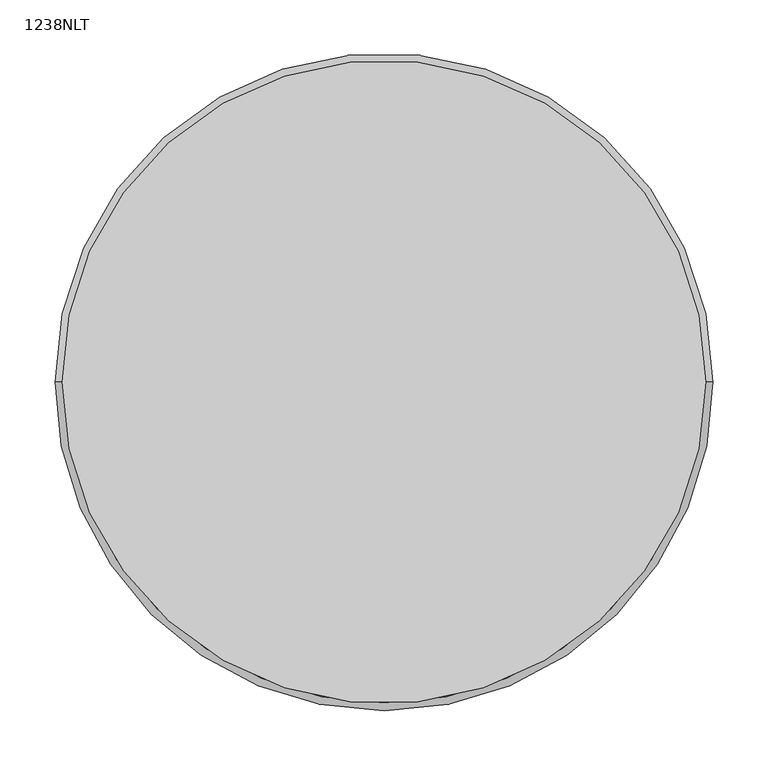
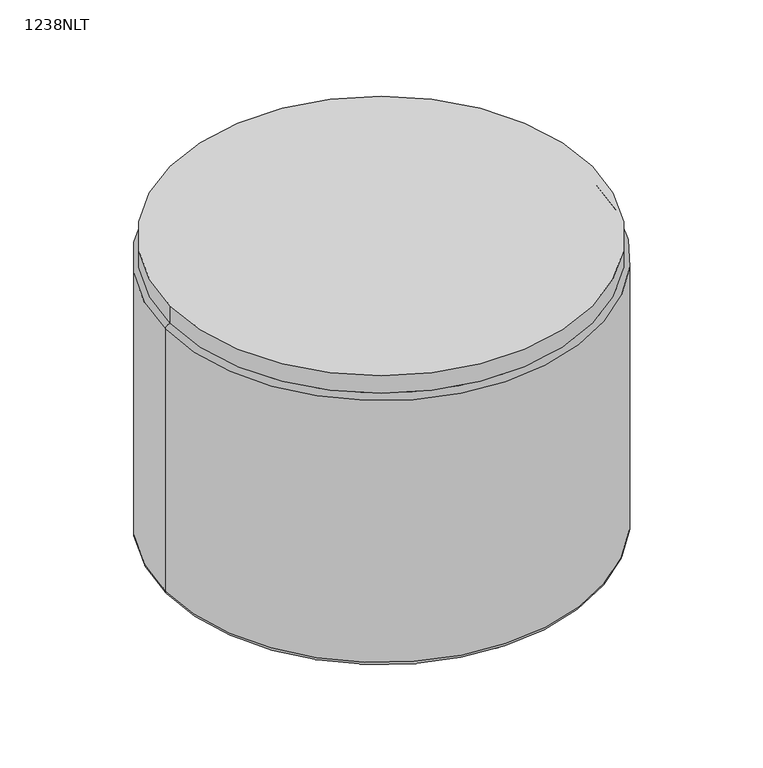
"""IFC4 building model written with IfcOpenShell, lengths in millimetres: furniture geometry, Laguna-Round_Ottomans-No_Legs-ERG : 1238NLT."""

from ifc_helpers import new_model, si_unit, point, frame, frame_2d, origin, place, context, project, spatial, circle_curve, ellipse_curve, trimmed, segment, composite_curve, outline, extrude, source, transform, mapped, element, save
from ifc_brep_helpers import plane_surface, cylinder_surface, revolved_surface, advanced_brep


def furniture_1238nlt_c17ac9a5(model_context):
    return source(origin(), model_context, "Body", "SolidModel", [
        extrude(outline(composite_curve([segment(trimmed(circle_curve(frame_2d((-4662.7421763, 1234.1558502)), 292.1), [point((-4954.8421763, 1234.1558502))], [point((-4370.6421763, 1234.1558502))], False, "CARTESIAN"), True, "CONTINUOUS"), segment(trimmed(circle_curve(frame_2d((-4662.7421763, 1234.1558502)), 292.1), [point((-4370.6421763, 1234.1558502))], [point((-4954.8421763, 1234.1558502))], False, "CARTESIAN"), True, "CONTINUOUS")], self_intersect=False)), frame((0.0, 0.0, 406.4), z_axis=(0.0, 0.0, 1.0), x_axis=(1.0, 0.0, 0.0)), (0.0, 0.0, 1.0), 25.4),
        advanced_brep(
        [(-4396.0421763, 1234.1558502, 10.16), (-4400.2852245, 1234.1558502, 10.16), (-4391.7991282, 1234.1558502, 10.16), (-4381.9638229, 1234.1558502, 0.0), (-4410.1205297, 1234.1558502, 0.0), (-4396.0421763, 1234.1558502, 0.0), (-4381.9638229, 1234.1558502, 3.9615026), (-4410.1205297, 1234.1558502, 3.9615026), (-4391.7991282, 1234.1558502, 3.9615026), (-4400.2852245, 1234.1558502, 3.9615026)],
        [
            (0, 1),
            (1, 2, circle_curve(frame((-4396.0421763, 1234.1558502, 10.16), z_axis=(0.0, 0.0, 1.0), x_axis=(-1.0, 0.0, 0.0)), 4.2430482)),
            (2, 0),
            (2, 1, circle_curve(frame((-4396.0421763, 1234.1558502, 10.16), z_axis=(0.0, 0.0, 1.0), x_axis=(-1.0, 0.0, 0.0)), 4.2430482)),
            (3, 4, circle_curve(frame((-4396.0421763, 1234.1558502, 0.0), z_axis=(0.0, 0.0, -1.0), x_axis=(-1.0, 0.0, 0.0)), 14.0783534)),
            (4, 5),
            (5, 3),
            (4, 3, circle_curve(frame((-4396.0421763, 1234.1558502, 0.0), z_axis=(0.0, 0.0, -1.0), x_axis=(-1.0, 0.0, 0.0)), 14.0783534)),
            (6, 7, circle_curve(frame((-4396.0421763, 1234.1558502, 3.9615026), z_axis=(0.0, 0.0, -1.0), x_axis=(-1.0, 0.0, 0.0)), 14.0783534)),
            (7, 4),
            (3, 6),
            (7, 6, circle_curve(frame((-4396.0421763, 1234.1558502, 3.9615026), z_axis=(0.0, 0.0, -1.0), x_axis=(-1.0, 0.0, 0.0)), 14.0783534)),
            (8, 9, circle_curve(frame((-4396.0421763, 1234.1558502, 3.9615026), z_axis=(0.0, 0.0, -1.0), x_axis=(-1.0, 0.0, 0.0)), 4.2430482)),
            (9, 7),
            (6, 8),
            (9, 8, circle_curve(frame((-4396.0421763, 1234.1558502, 3.9615026), z_axis=(0.0, 0.0, -1.0), x_axis=(-1.0, 0.0, 0.0)), 4.2430482)),
            (1, 9),
            (8, 2),
        ],
        [
            plane_surface(frame((-4396.0421763, 1234.1558502, 10.16), z_axis=(0.0, 0.0, 1.0), x_axis=(-1.0, 0.0, 0.0))),
            plane_surface(frame((-4396.0421763, 1234.1558502, 0.0), z_axis=(0.0, 0.0, -1.0), x_axis=(-1.0, 0.0, 0.0))),
            cylinder_surface(frame((-4396.0421763, 1234.1558502, 80.01), z_axis=(0.0, 0.0, 1.0), x_axis=(-1.0, 0.0, 0.0)), 14.0783534),
            plane_surface(frame((-4396.0421763, 1234.1558502, 3.9615026), z_axis=(0.0, 0.0, 1.0), x_axis=(-1.0, 0.0, 0.0))),
            cylinder_surface(frame((-4396.0421763, 1234.1558502, 80.01), z_axis=(0.0, 0.0, 1.0), x_axis=(-1.0, 0.0, 0.0)), 4.2430482),
        ],
        [
            (0, [[1, 2, 3]]),
            (0, [[-3, 4, -1]]),
            (1, [[5, 6, 7]]),
            (1, [[8, -7, -6]]),
            (2, [[9, 10, -5, 11]]),
            (2, [[12, -11, -8, -10]]),
            (3, [[13, 14, -9, 15]]),
            (3, [[16, -15, -12, -14]]),
            (4, [[-2, 17, -13, 18]]),
            (4, [[-4, -18, -16, -17]]),
        ],
    ),
        advanced_brep(
        [(-4933.6852245, 1234.1558502, 3.9615026), (-4925.1991282, 1234.1558502, 3.9615026), (-4925.1991282, 1234.1558502, 10.16), (-4933.6852245, 1234.1558502, 10.16), (-4943.5205297, 1234.1558502, 3.9615026), (-4915.3638229, 1234.1558502, 3.9615026), (-4943.5205297, 1234.1558502, 0.0), (-4915.3638229, 1234.1558502, 0.0), (-4929.4421763, 1234.1558502, 0.0), (-4929.4421763, 1234.1558502, 10.16)],
        [
            (0, 1, circle_curve(frame((-4929.4421763, 1234.1558502, 3.9615026), z_axis=(0.0, 0.0, 1.0), x_axis=(1.0, 0.0, 0.0)), 4.2430482)),
            (1, 2),
            (2, 3, circle_curve(frame((-4929.4421763, 1234.1558502, 10.16), z_axis=(0.0, 0.0, -1.0), x_axis=(1.0, 0.0, 0.0)), 4.2430482)),
            (3, 0),
            (1, 0, circle_curve(frame((-4929.4421763, 1234.1558502, 3.9615026), z_axis=(0.0, 0.0, 1.0), x_axis=(1.0, 0.0, 0.0)), 4.2430482)),
            (3, 2, circle_curve(frame((-4929.4421763, 1234.1558502, 10.16), z_axis=(0.0, 0.0, -1.0), x_axis=(1.0, 0.0, 0.0)), 4.2430482)),
            (4, 5, circle_curve(frame((-4929.4421763, 1234.1558502, 3.9615026), z_axis=(0.0, 0.0, 1.0), x_axis=(1.0, 0.0, 0.0)), 14.0783534)),
            (5, 1),
            (0, 4),
            (5, 4, circle_curve(frame((-4929.4421763, 1234.1558502, 3.9615026), z_axis=(0.0, 0.0, 1.0), x_axis=(1.0, 0.0, 0.0)), 14.0783534)),
            (6, 7, circle_curve(frame((-4929.4421763, 1234.1558502, 0.0), z_axis=(0.0, 0.0, 1.0), x_axis=(1.0, 0.0, 0.0)), 14.0783534)),
            (7, 5),
            (4, 6),
            (7, 6, circle_curve(frame((-4929.4421763, 1234.1558502, 0.0), z_axis=(0.0, 0.0, 1.0), x_axis=(1.0, 0.0, 0.0)), 14.0783534)),
            (8, 7),
            (6, 8),
            (2, 9),
            (9, 3),
        ],
        [
            cylinder_surface(frame((-4929.4421763, 1234.1558502, 29.21), z_axis=(0.0, 0.0, -1.0), x_axis=(1.0, 0.0, 0.0)), 4.2430482),
            plane_surface(frame((-4929.4421763, 1234.1558502, 3.9615026), z_axis=(0.0, 0.0, 1.0), x_axis=(1.0, 0.0, 0.0))),
            cylinder_surface(frame((-4929.4421763, 1234.1558502, 29.21), z_axis=(0.0, 0.0, -1.0), x_axis=(1.0, 0.0, 0.0)), 14.0783534),
            plane_surface(frame((-4929.4421763, 1234.1558502, 0.0), z_axis=(0.0, 0.0, -1.0), x_axis=(1.0, 0.0, 0.0))),
            plane_surface(frame((-4929.4421763, 1234.1558502, 10.16), z_axis=(0.0, 0.0, 1.0), x_axis=(1.0, 0.0, 0.0))),
        ],
        [
            (0, [[1, 2, 3, 4]]),
            (0, [[5, -4, 6, -2]]),
            (1, [[7, 8, -1, 9]]),
            (1, [[10, -9, -5, -8]]),
            (2, [[11, 12, -7, 13]]),
            (2, [[14, -13, -10, -12]]),
            (3, [[15, -11, 16]]),
            (3, [[-16, -14, -15]]),
            (4, [[-3, 17, 18]]),
            (4, [[-6, -18, -17]]),
        ],
    ),
        advanced_brep(
        [(-4662.7421763, 971.6988983, 3.9615026), (-4662.7421763, 963.212802, 3.9615026), (-4662.7421763, 963.212802, 10.16), (-4662.7421763, 971.6988983, 10.16), (-4662.7421763, 981.5342036, 3.9615026), (-4662.7421763, 953.3774967, 3.9615026), (-4662.7421763, 981.5342036, 0.0), (-4662.7421763, 953.3774967, 0.0), (-4662.7421763, 967.4558502, 0.0), (-4662.7421763, 967.4558502, 10.16)],
        [
            (0, 1, circle_curve(frame((-4662.7421763, 967.4558502, 3.9615026), z_axis=(0.0, 0.0, 1.0), x_axis=(0.0, -1.0, 0.0)), 4.2430482)),
            (1, 2),
            (2, 3, circle_curve(frame((-4662.7421763, 967.4558502, 10.16), z_axis=(0.0, 0.0, -1.0), x_axis=(0.0, -1.0, 0.0)), 4.2430482)),
            (3, 0),
            (1, 0, circle_curve(frame((-4662.7421763, 967.4558502, 3.9615026), z_axis=(0.0, 0.0, 1.0), x_axis=(0.0, -1.0, 0.0)), 4.2430482)),
            (3, 2, circle_curve(frame((-4662.7421763, 967.4558502, 10.16), z_axis=(0.0, 0.0, -1.0), x_axis=(0.0, -1.0, 0.0)), 4.2430482)),
            (4, 5, circle_curve(frame((-4662.7421763, 967.4558502, 3.9615026), z_axis=(0.0, 0.0, 1.0), x_axis=(0.0, -1.0, 0.0)), 14.0783534)),
            (5, 1),
            (0, 4),
            (5, 4, circle_curve(frame((-4662.7421763, 967.4558502, 3.9615026), z_axis=(0.0, 0.0, 1.0), x_axis=(0.0, -1.0, 0.0)), 14.0783534)),
            (6, 7, circle_curve(frame((-4662.7421763, 967.4558502, 0.0), z_axis=(0.0, 0.0, 1.0), x_axis=(0.0, -1.0, 0.0)), 14.0783534)),
            (7, 5),
            (4, 6),
            (7, 6, circle_curve(frame((-4662.7421763, 967.4558502, 0.0), z_axis=(0.0, 0.0, 1.0), x_axis=(0.0, -1.0, 0.0)), 14.0783534)),
            (8, 7),
            (6, 8),
            (2, 9),
            (9, 3),
        ],
        [
            cylinder_surface(frame((-4662.7421763, 967.4558502, 39.775957), z_axis=(0.0, 0.0, -1.0), x_axis=(0.0, -1.0, 0.0)), 4.2430482),
            plane_surface(frame((-4662.7421763, 967.4558502, 3.9615026), z_axis=(0.0, 0.0, 1.0), x_axis=(0.0, -1.0, 0.0))),
            cylinder_surface(frame((-4662.7421763, 967.4558502, 39.775957), z_axis=(0.0, 0.0, -1.0), x_axis=(0.0, -1.0, 0.0)), 14.0783534),
            plane_surface(frame((-4662.7421763, 967.4558502, 0.0), z_axis=(0.0, 0.0, -1.0), x_axis=(0.0, -1.0, 0.0))),
            plane_surface(frame((-4662.7421763, 967.4558502, 10.16), z_axis=(0.0, 0.0, 1.0), x_axis=(0.0, -1.0, 0.0))),
        ],
        [
            (0, [[1, 2, 3, 4]]),
            (0, [[5, -4, 6, -2]]),
            (1, [[7, 8, -1, 9]]),
            (1, [[10, -9, -5, -8]]),
            (2, [[11, 12, -7, 13]]),
            (2, [[14, -13, -10, -12]]),
            (3, [[15, -11, 16]]),
            (3, [[-16, -14, -15]]),
            (4, [[-3, 17, 18]]),
            (4, [[-6, -18, -17]]),
        ],
    ),
        advanced_brep(
        [(-4662.7421763, 1505.0988983, 3.9615026), (-4662.7421763, 1496.612802, 3.9615026), (-4662.7421763, 1496.612802, 10.16), (-4662.7421763, 1505.0988983, 10.16), (-4662.7421763, 1514.9342036, 3.9615026), (-4662.7421763, 1486.7774967, 3.9615026), (-4662.7421763, 1514.9342036, 0.0), (-4662.7421763, 1486.7774967, 0.0), (-4662.7421763, 1500.8558502, 0.0), (-4662.7421763, 1500.8558502, 10.16)],
        [
            (0, 1, circle_curve(frame((-4662.7421763, 1500.8558502, 3.9615026), z_axis=(0.0, 0.0, 1.0), x_axis=(0.0, -1.0, 0.0)), 4.2430482)),
            (1, 2),
            (2, 3, circle_curve(frame((-4662.7421763, 1500.8558502, 10.16), z_axis=(0.0, 0.0, -1.0), x_axis=(0.0, -1.0, 0.0)), 4.2430482)),
            (3, 0),
            (1, 0, circle_curve(frame((-4662.7421763, 1500.8558502, 3.9615026), z_axis=(0.0, 0.0, 1.0), x_axis=(0.0, -1.0, 0.0)), 4.2430482)),
            (3, 2, circle_curve(frame((-4662.7421763, 1500.8558502, 10.16), z_axis=(0.0, 0.0, -1.0), x_axis=(0.0, -1.0, 0.0)), 4.2430482)),
            (4, 5, circle_curve(frame((-4662.7421763, 1500.8558502, 3.9615026), z_axis=(0.0, 0.0, 1.0), x_axis=(0.0, -1.0, 0.0)), 14.0783534)),
            (5, 1),
            (0, 4),
            (5, 4, circle_curve(frame((-4662.7421763, 1500.8558502, 3.9615026), z_axis=(0.0, 0.0, 1.0), x_axis=(0.0, -1.0, 0.0)), 14.0783534)),
            (6, 7, circle_curve(frame((-4662.7421763, 1500.8558502, 0.0), z_axis=(0.0, 0.0, 1.0), x_axis=(0.0, -1.0, 0.0)), 14.0783534)),
            (7, 5),
            (4, 6),
            (7, 6, circle_curve(frame((-4662.7421763, 1500.8558502, 0.0), z_axis=(0.0, 0.0, 1.0), x_axis=(0.0, -1.0, 0.0)), 14.0783534)),
            (8, 7),
            (6, 8),
            (2, 9),
            (9, 3),
        ],
        [
            cylinder_surface(frame((-4662.7421763, 1500.8558502, 48.26), z_axis=(0.0, 0.0, -1.0), x_axis=(0.0, -1.0, 0.0)), 4.2430482),
            plane_surface(frame((-4662.7421763, 1500.8558502, 3.9615026), z_axis=(0.0, 0.0, 1.0), x_axis=(0.0, -1.0, 0.0))),
            cylinder_surface(frame((-4662.7421763, 1500.8558502, 48.26), z_axis=(0.0, 0.0, -1.0), x_axis=(0.0, -1.0, 0.0)), 14.0783534),
            plane_surface(frame((-4662.7421763, 1500.8558502, 0.0), z_axis=(0.0, 0.0, -1.0), x_axis=(0.0, -1.0, 0.0))),
            plane_surface(frame((-4662.7421763, 1500.8558502, 10.16), z_axis=(0.0, 0.0, 1.0), x_axis=(0.0, -1.0, 0.0))),
        ],
        [
            (0, [[1, 2, 3, 4]]),
            (0, [[5, -4, 6, -2]]),
            (1, [[7, 8, -1, 9]]),
            (1, [[10, -9, -5, -8]]),
            (2, [[11, 12, -7, 13]]),
            (2, [[14, -13, -10, -12]]),
            (3, [[15, -11, 16]]),
            (3, [[-16, -14, -15]]),
            (4, [[-3, 17, 18]]),
            (4, [[-6, -18, -17]]),
        ],
    ),
        advanced_brep(
        [(-4364.281116, 1234.1558502, 399.8831003), (-4961.2032366, 1234.1558502, 399.8831003), (-4961.2032366, 1234.1558502, 16.6768997), (-4364.281116, 1234.1558502, 16.6768997), (-4371.2439761, 1234.1558502, 406.4), (-4954.2403765, 1234.1558502, 406.4), (-4954.2403765, 1234.1558502, 10.16), (-4371.2439761, 1234.1558502, 10.16)],
        [
            (0, 1, circle_curve(frame((-4662.7421763, 1234.1558502, 399.8831003), z_axis=(0.0, 0.0, -1.0), x_axis=(-1.0, 0.0, 0.0)), 298.4610603)),
            (1, 2, circle_curve(frame((-2068.6401763, 1234.1558502, 208.28), z_axis=(0.0, -1.0, 0.0), x_axis=(1.0, 0.0, 0.0)), 2898.902)),
            (2, 3, circle_curve(frame((-4662.7421763, 1234.1558502, 16.6768997), z_axis=(0.0, 0.0, 1.0), x_axis=(-1.0, 0.0, 0.0)), 298.4610603)),
            (3, 0, circle_curve(frame((-7256.8441763, 1234.1558502, 208.28), z_axis=(0.0, -1.0, 0.0), x_axis=(-1.0, 0.0, 0.0)), 2898.902)),
            (0, 4, circle_curve(frame((-4371.2439761, 1234.1558502, 399.4218811), z_axis=(0.0, -1.0, 0.0), x_axis=(-1.0, 0.0, 0.0)), 6.9781189)),
            (4, 5, circle_curve(frame((-4662.7421763, 1234.1558502, 406.4), z_axis=(0.0, 0.0, -1.0), x_axis=(-1.0, 0.0, 0.0)), 291.4982002)),
            (5, 1, circle_curve(frame((-4954.2403765, 1234.1558502, 399.4218811), z_axis=(0.0, -1.0, 0.0), x_axis=(1.0, 0.0, 0.0)), 6.9781189)),
            (2, 6, circle_curve(frame((-4954.2403765, 1234.1558502, 17.1381189), z_axis=(0.0, -1.0, 0.0), x_axis=(1.0, 0.0, 0.0)), 6.9781189)),
            (6, 7, circle_curve(frame((-4662.7421763, 1234.1558502, 10.16), z_axis=(0.0, 0.0, 1.0), x_axis=(-1.0, 0.0, 0.0)), 291.4982002)),
            (7, 3, circle_curve(frame((-4371.2439761, 1234.1558502, 17.1381189), z_axis=(0.0, -1.0, 0.0), x_axis=(-1.0, 0.0, 0.0)), 6.9781189)),
            (1, 0, circle_curve(frame((-4662.7421763, 1234.1558502, 399.8831003), z_axis=(0.0, 0.0, -1.0), x_axis=(1.0, 0.0, 0.0)), 298.4610603)),
            (3, 2, circle_curve(frame((-4662.7421763, 1234.1558502, 16.6768997), z_axis=(0.0, 0.0, 1.0), x_axis=(1.0, 0.0, 0.0)), 298.4610603)),
            (5, 4, circle_curve(frame((-4662.7421763, 1234.1558502, 406.4), z_axis=(0.0, 0.0, -1.0), x_axis=(1.0, 0.0, 0.0)), 291.4982002)),
            (7, 6, circle_curve(frame((-4662.7421763, 1234.1558502, 10.16), z_axis=(0.0, 0.0, 1.0), x_axis=(1.0, 0.0, 0.0)), 291.4982002)),
        ],
        [
            revolved_surface(trimmed(ellipse_curve(frame((-2068.6401763, 1234.1558502, 208.28), z_axis=(0.0, 1.0, 0.0), x_axis=(1.0, 0.0, 0.0)), 2898.902, 2898.902), [point((-4961.2032366, 1234.1558502, 16.6768997))], [point((-4961.2032366, 1234.1558502, 399.8831003))], True, "CARTESIAN"), (-4662.7421763, 1234.1558502, 0.0), (0.0, 0.0, 1.0)),
            revolved_surface(trimmed(ellipse_curve(frame((-4954.2403765, 1234.1558502, 399.4218811), z_axis=(0.0, 1.0, 0.0), x_axis=(1.0, 0.0, 0.0)), 6.9781189, 6.9781189), [point((-4961.2032366, 1234.1558502, 399.8831003))], [point((-4954.2403765, 1234.1558502, 406.4))], True, "CARTESIAN"), (-4662.7421763, 1234.1558502, 0.0), (0.0, 0.0, 1.0)),
            revolved_surface(trimmed(ellipse_curve(frame((-4954.2403765, 1234.1558502, 17.1381189), z_axis=(0.0, 1.0, 0.0), x_axis=(1.0, 0.0, 0.0)), 6.9781189, 6.9781189), [point((-4954.2403765, 1234.1558502, 10.16))], [point((-4961.2032366, 1234.1558502, 16.6768997))], True, "CARTESIAN"), (-4662.7421763, 1234.1558502, 0.0), (0.0, 0.0, 1.0)),
            revolved_surface(trimmed(ellipse_curve(frame((-7256.8441763, 1234.1558502, 208.28), z_axis=(0.0, -1.0, 0.0), x_axis=(-1.0, 0.0, 0.0)), 2898.902, 2898.902), [point((-4364.281116, 1234.1558502, 16.6768997))], [point((-4364.281116, 1234.1558502, 399.8831003))], True, "CARTESIAN"), (-4662.7421763, 1234.1558502, 0.0), (0.0, 0.0, 1.0)),
            revolved_surface(trimmed(ellipse_curve(frame((-4371.2439761, 1234.1558502, 399.4218811), z_axis=(0.0, -1.0, 0.0), x_axis=(-1.0, 0.0, 0.0)), 6.9781189, 6.9781189), [point((-4364.281116, 1234.1558502, 399.8831003))], [point((-4371.2439761, 1234.1558502, 406.4))], True, "CARTESIAN"), (-4662.7421763, 1234.1558502, 0.0), (0.0, 0.0, 1.0)),
            revolved_surface(trimmed(ellipse_curve(frame((-4371.2439761, 1234.1558502, 17.1381189), z_axis=(0.0, -1.0, 0.0), x_axis=(-1.0, 0.0, 0.0)), 6.9781189, 6.9781189), [point((-4371.2439761, 1234.1558502, 10.16))], [point((-4364.281116, 1234.1558502, 16.6768997))], True, "CARTESIAN"), (-4662.7421763, 1234.1558502, 0.0), (0.0, 0.0, 1.0)),
            plane_surface(frame((-4371.2439761, 1234.1558502, 406.4), z_axis=(0.0, 0.0, 1.0), x_axis=(0.0, 1.0, 0.0))),
            plane_surface(frame((-4371.2439761, 1234.1558502, 10.16), z_axis=(0.0, 0.0, -1.0), x_axis=(0.0, -1.0, 0.0))),
        ],
        [
            (0, [[1, 2, 3, 4]]),
            (1, [[-1, 5, 6, 7]]),
            (2, [[-3, 8, 9, 10]]),
            (3, [[-2, 11, -4, 12]]),
            (4, [[-7, 13, -5, -11]]),
            (5, [[-8, -12, -10, 14]]),
            (6, [[-6, -13]]),
            (7, [[-9, -14]]),
        ],
    ),
    ])


if __name__ == "__main__":
    model = new_model("IFC4")
    model_context = context("Model", 3, world=origin())
    ifc_project = project(units=[si_unit("LENGTHUNIT", "METRE", prefix="MILLI")], contexts=[model_context])
    site = spatial("IfcSite", under=ifc_project)
    building = spatial("IfcBuilding", under=site)
    placement = place(None, origin())
    furniture_1238nlt_shape = furniture_1238nlt_c17ac9a5(model_context)
    element("IfcFurniture", 1, ObjectType="Laguna-Round_Ottomans-No_Legs-ERG : 1238NLT", at=placement, inside=building, context=model_context, shape_type="MappedRepresentation", body=[
        mapped(furniture_1238nlt_shape, transform((0.0, 0.0, 0.0), x_axis=(1.0, 0.0, 0.0), y_axis=(0.0, 1.0, 0.0), z_axis=(0.0, 0.0, 1.0))),
    ])
    save(model, "model.ifc")
